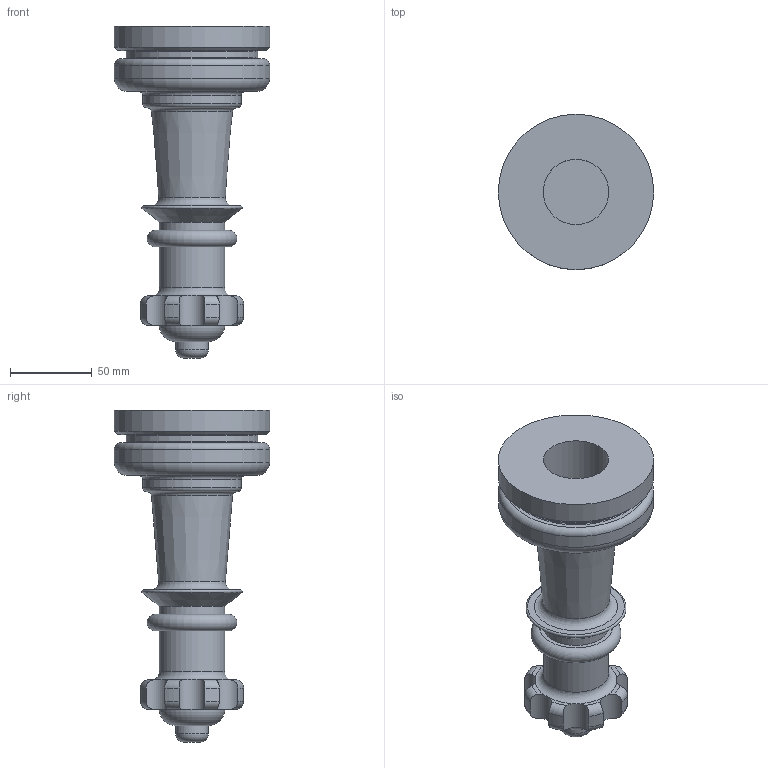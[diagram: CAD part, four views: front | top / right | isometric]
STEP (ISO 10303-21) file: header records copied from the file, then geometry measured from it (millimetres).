
FILE_DESCRIPTION(('STEP AP214'),'1');
FILE_NAME('Chess_Queen.STEP','2026-09-04T14:12:06',(' '),('GO2cam international'),'Spatial InterOp 3D','GO2cam V6.13',' ');
FILE_SCHEMA(('AUTOMOTIVE_DESIGN { 1 0 10303 214 1 1 1 1 }'));
Length unit declared in the file: millimetre
Products named in the file (1): 1
Bounding box: 95 x 95 x 203 mm (x, y, z)
Volume: 502125.6 mm3; surface area: 59821.2 mm2
Topology: 1 solids, 1 shells, 83 faces, 227 edges, 195 vertices
Faces by surface type: torus 29, plane 27, cylinder 24, cone 3
Full cylindrical faces by diameter (mm): 20 x1, 40 x3, 60 x1, 80.5 x1, 95 x2
Entity records: 4015 total; most frequent: CARTESIAN_POINT 943, DIRECTION 467, ORIENTED_EDGE 322, AXIS2_PLACEMENT_3D 213, STYLED_ITEM 202, PRESENTATION_STYLE_ASSIGNMENT 202, COLOUR_RGB 202, CURVE_STYLE 201
